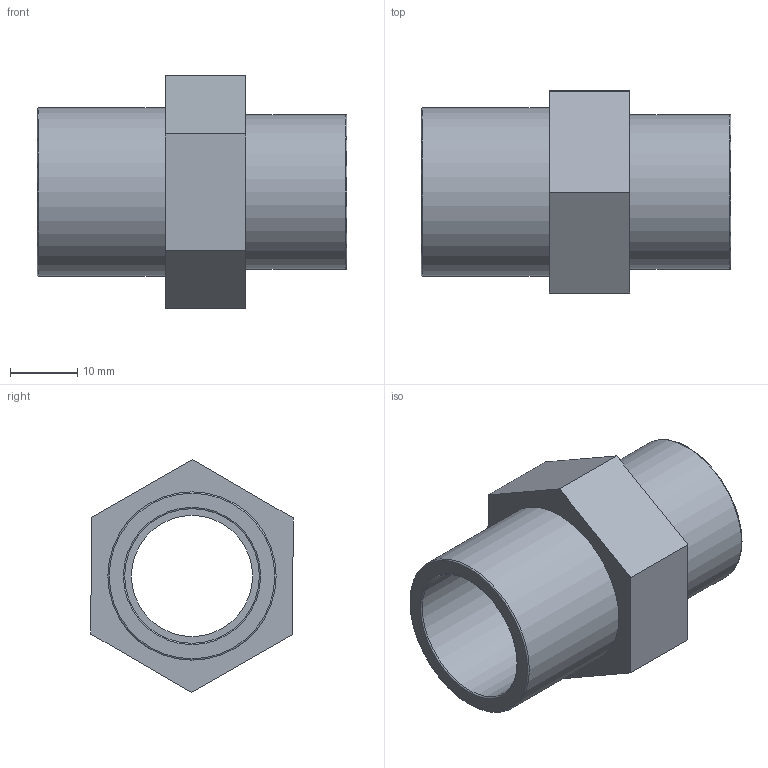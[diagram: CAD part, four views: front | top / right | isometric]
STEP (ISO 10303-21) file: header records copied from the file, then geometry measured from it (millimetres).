
FILE_DESCRIPTION(/* description */ ('PLASSON REDUCER THR-CEM PVC 25(20)1/2"F'),/* implementation_level */ '2;1');
FILE_NAME(/* name */ 'C:\Dropbox\KIMPROJECTS-Inventor\99-16-3568-Processing\PVC Catalog 2017\050202\050202025005.ipt.stp',/* time_stamp */ '2017-12-07T15:53:49+02:00',/* author */ ('KIM'),/* organization */ (''),/* preprocessor_version */ 'ST-DEVELOPER v15.6',/* originating_system */ 'Autodesk Inventor 2015',/* authorisation */ '');
FILE_SCHEMA (('AUTOMOTIVE_DESIGN { 1 0 10303 214 3 1 1 }'));
Length unit declared in the file: millimetre
Products named in the file (1): 050202025005
Bounding box: 46 x 30.05 x 34.64 mm (x, y, z)
Volume: 11367.2 mm3; surface area: 7645.5 mm2
Topology: 1 solids, 1 shells, 21 faces, 41 edges, 26 vertices
Faces by surface type: plane 12, cylinder 5, torus 4
Full cylindrical faces by diameter (mm): 18 x1, 18.631 x1, 20 x1, 23 x1, 25 x1
Entity records: 520 total; most frequent: DIRECTION 90, CARTESIAN_POINT 80, ORIENTED_EDGE 64, EDGE_LOOP 36, AXIS2_PLACEMENT_3D 36, EDGE_CURVE 32, VERTEX_POINT 26, FACE_OUTER_BOUND 21
